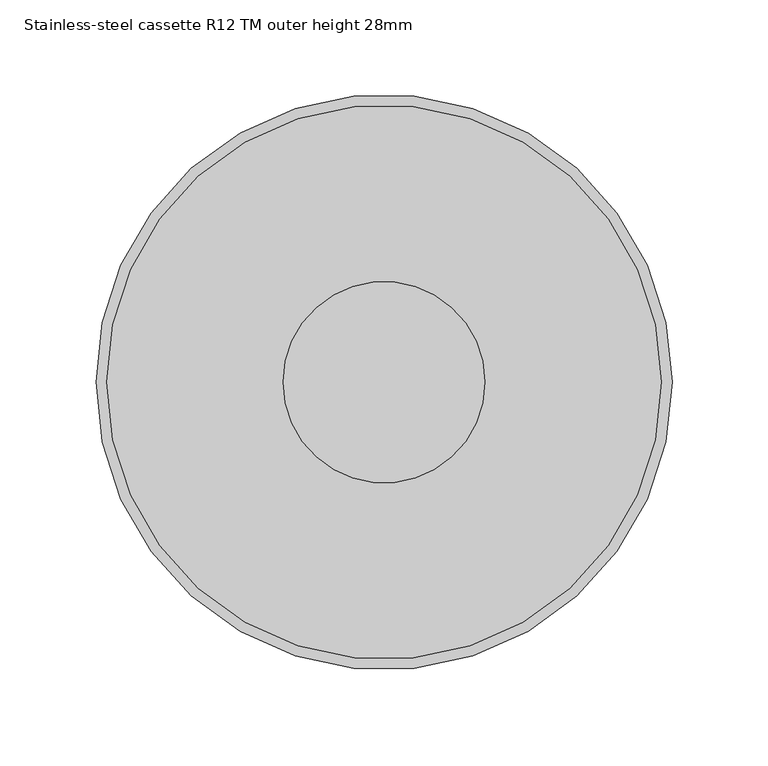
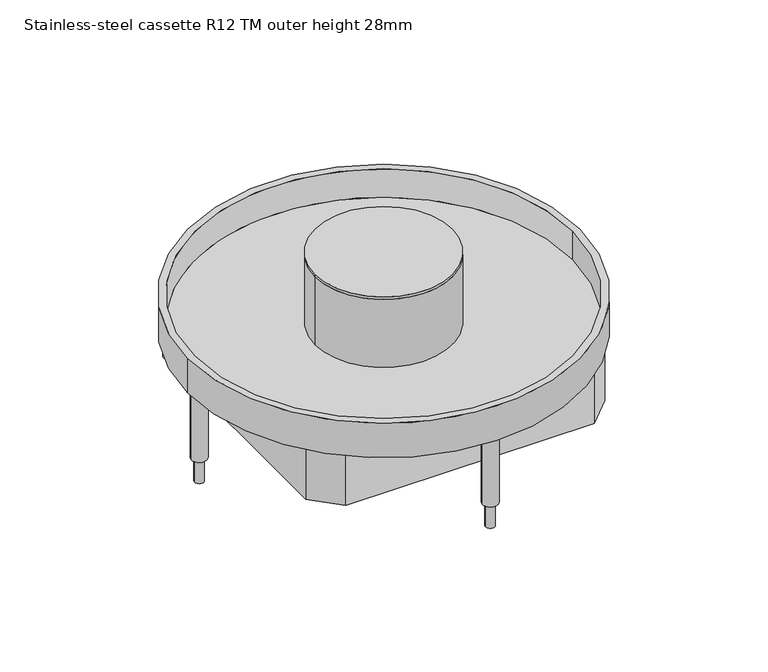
"""IFC4 building model written with IfcOpenShell, lengths in millimetres: proxy geometry, Electrical_Installation_Hager_VE-EE_EKR-Height-adjustable-stainless-steel-cassette-with-tube-mounting-set-round-for-damp-cleaned-floors : Stainless-steel cassette R12 TM outer height 28mm."""

from ifc_helpers import new_model, si_unit, point, frame, frame_2d, origin, origin_2d, place, context, project, spatial, polyline, circle_curve, trimmed, segment, composite_curve, outline, extrude, source, transform, mapped, element, save
from ifc_brep_helpers import plane_surface, cylinder_surface, revolved_surface, advanced_brep


def stainless_steel_cassette_r12_tm_outer_height_28mm_26a360f3(model_context):
    return source(origin(), model_context, "Body", "SolidModel", [
        extrude(outline(composite_curve([segment(trimmed(circle_curve(origin_2d(), 52.5), [point((-52.5, 0.0))], [point((52.5, 0.0))], False, "CARTESIAN"), True, "CONTINUOUS"), segment(trimmed(circle_curve(origin_2d(), 52.5), [point((52.5, 0.0))], [point((-52.5, 0.0))], False, "CARTESIAN"), True, "CONTINUOUS")], self_intersect=False)), frame((0.0, 0.0, 34.011943), z_axis=(0.0, 0.0, 1.0), x_axis=(1.0, 0.0, 0.0)), (0.0, 0.0, 1.0), 1.9818652),
        extrude(outline(composite_curve([segment(trimmed(circle_curve(origin_2d(), 52.5), [point((-52.5, 0.0))], [point((52.5, 0.0))], False, "CARTESIAN"), True, "CONTINUOUS"), segment(trimmed(circle_curve(origin_2d(), 52.5), [point((52.5, 0.0))], [point((-52.5, 0.0))], False, "CARTESIAN"), True, "CONTINUOUS")], self_intersect=False), holes=[composite_curve([segment(trimmed(circle_curve(origin_2d(), 40.0), [point((-40.0, 0.0))], [point((40.0, 0.0))], True, "CARTESIAN"), True, "CONTINUOUS"), segment(trimmed(circle_curve(origin_2d(), 40.0), [point((40.0, 0.0))], [point((-40.0, 0.0))], True, "CARTESIAN"), True, "CONTINUOUS")], self_intersect=False)]), frame((0.0, 0.0, -20.988057), z_axis=(0.0, 0.0, 1.0), x_axis=(1.0, 0.0, 0.0)), (0.0, 0.0, 1.0), 55.0),
        extrude(outline(composite_curve([segment(trimmed(circle_curve(frame_2d((-141.3, 0.0)), 3.5), [point((-144.8, 0.0))], [point((-137.8, 0.0))], False, "CARTESIAN"), True, "CONTINUOUS"), segment(trimmed(circle_curve(frame_2d((-141.3, 0.0)), 3.5), [point((-137.8, 0.0))], [point((-144.8, 0.0))], False, "CARTESIAN"), True, "CONTINUOUS")], self_intersect=False)), frame((0.0, 0.0, -100.0), z_axis=(0.0, 0.0, 1.0), x_axis=(1.0, 0.0, 0.0)), (0.0, 0.0, 1.0), 74.011943),
        extrude(outline(composite_curve([segment(trimmed(circle_curve(frame_2d((0.0, 141.3)), 3.5), [point((-3.5, 141.3))], [point((3.5, 141.3))], False, "CARTESIAN"), True, "CONTINUOUS"), segment(trimmed(circle_curve(frame_2d((0.0, 141.3)), 3.5), [point((3.5, 141.3))], [point((-3.5, 141.3))], False, "CARTESIAN"), True, "CONTINUOUS")], self_intersect=False)), frame((0.0, 0.0, -100.0), z_axis=(0.0, 0.0, 1.0), x_axis=(1.0, 0.0, 0.0)), (0.0, 0.0, 1.0), 74.011943),
        extrude(outline(composite_curve([segment(trimmed(circle_curve(frame_2d((141.3, 0.0)), 3.548869), [point((137.751131, 0.0))], [point((144.848869, 0.0))], False, "CARTESIAN"), True, "CONTINUOUS"), segment(trimmed(circle_curve(frame_2d((141.3, 0.0)), 3.548869), [point((144.848869, 0.0))], [point((137.751131, 0.0))], False, "CARTESIAN"), True, "CONTINUOUS")], self_intersect=False)), frame((0.0, 0.0, -100.0), z_axis=(0.0, 0.0, 1.0), x_axis=(1.0, 0.0, 0.0)), (0.0, 0.0, 1.0), 74.011943),
        extrude(outline(composite_curve([segment(trimmed(circle_curve(frame_2d((0.0, -141.3)), 3.5), [point((-3.5, -141.3))], [point((3.5, -141.3))], False, "CARTESIAN"), True, "CONTINUOUS"), segment(trimmed(circle_curve(frame_2d((0.0, -141.3)), 3.5), [point((3.5, -141.3))], [point((-3.5, -141.3))], False, "CARTESIAN"), True, "CONTINUOUS")], self_intersect=False)), frame((0.0, 0.0, -100.0), z_axis=(0.0, 0.0, 1.0), x_axis=(1.0, 0.0, 0.0)), (0.0, 0.0, 1.0), 74.011943),
        advanced_brep(
        [(144.5, 0.0, -20.988057), (-144.5, 0.0, -20.988057), (-40.0, 0.0, -20.988057), (40.0, 0.0, -20.988057), (-150.0, 0.0, -25.988057), (150.0, 0.0, -25.988057), (-40.0, 0.0, -25.988057), (40.0, 0.0, -25.988057), (-150.0, 0.0, 2.011943), (150.0, 0.0, 2.011943), (-144.5, 0.0, 2.011943), (144.5, 0.0, 2.011943)],
        [
            (0, 1, circle_curve(frame((0.0, 0.0, -20.988057), z_axis=(0.0, 0.0, 1.0), x_axis=(1.0, 0.0, 0.0)), 144.5)),
            (1, 0, circle_curve(frame((0.0, 0.0, -20.988057), z_axis=(0.0, 0.0, 1.0), x_axis=(1.0, 0.0, 0.0)), 144.5)),
            (2, 3, circle_curve(frame((0.0, 0.0, -20.988057), z_axis=(0.0, 0.0, -1.0), x_axis=(1.0, 0.0, 0.0)), 40.0)),
            (3, 2, circle_curve(frame((0.0, 0.0, -20.988057), z_axis=(0.0, 0.0, -1.0), x_axis=(1.0, 0.0, 0.0)), 40.0)),
            (4, 5, circle_curve(frame((0.0, 0.0, -25.988057), z_axis=(0.0, 0.0, -1.0), x_axis=(1.0, 0.0, 0.0)), 150.0)),
            (5, 4, circle_curve(frame((0.0, 0.0, -25.988057), z_axis=(0.0, 0.0, -1.0), x_axis=(1.0, 0.0, 0.0)), 150.0)),
            (6, 7, circle_curve(frame((0.0, 0.0, -25.988057), z_axis=(0.0, 0.0, 1.0), x_axis=(1.0, 0.0, 0.0)), 40.0)),
            (7, 6, circle_curve(frame((0.0, 0.0, -25.988057), z_axis=(0.0, 0.0, 1.0), x_axis=(1.0, 0.0, 0.0)), 40.0)),
            (8, 9, circle_curve(frame((0.0, 0.0, 2.011943), z_axis=(0.0, 0.0, 1.0), x_axis=(1.0, 0.0, 0.0)), 150.0)),
            (9, 8, circle_curve(frame((0.0, 0.0, 2.011943), z_axis=(0.0, 0.0, 1.0), x_axis=(1.0, 0.0, 0.0)), 150.0)),
            (10, 11, circle_curve(frame((0.0, 0.0, 2.011943), z_axis=(0.0, 0.0, -1.0), x_axis=(1.0, 0.0, 0.0)), 144.5)),
            (11, 10, circle_curve(frame((0.0, 0.0, 2.011943), z_axis=(0.0, 0.0, -1.0), x_axis=(1.0, 0.0, 0.0)), 144.5)),
            (8, 4),
            (5, 9),
            (10, 1),
            (0, 11),
            (2, 6),
            (7, 3),
        ],
        [
            plane_surface(frame((144.5, 0.0, -20.988057), z_axis=(0.0, 0.0, 1.0), x_axis=(0.0, 1.0, 0.0))),
            plane_surface(frame((144.5, 0.0, -25.988057), z_axis=(0.0, 0.0, -1.0), x_axis=(0.0, -1.0, 0.0))),
            plane_surface(frame((150.0, 0.0, 2.011943), z_axis=(0.0, 0.0, 1.0), x_axis=(0.0, 1.0, 0.0))),
            cylinder_surface(frame((0.0, 0.0, -25.988057), z_axis=(0.0, 0.0, 1.0), x_axis=(1.0, 0.0, 0.0)), 150.0),
            revolved_surface(polyline([(144.5, 0.0, -20.988057), (144.5, 0.0, 2.011943)]), (0.0, 0.0, 0.0), (0.0, 0.0, -1.0)),
            revolved_surface(polyline([(40.0, 0.0, -25.988057), (40.0, 0.0, -20.988057)]), (0.0, 0.0, 0.0), (0.0, 0.0, -1.0)),
        ],
        [
            (0, [[1, 2], [3, 4]]),
            (1, [[5, 6], [7, 8]]),
            (2, [[9, 10], [11, 12]]),
            (3, [[-9, 13, -6, 14]]),
            (3, [[-10, -14, -5, -13]]),
            (4, [[-11, 15, -1, 16]]),
            (4, [[-12, -16, -2, -15]]),
            (5, [[-3, 17, -8, 18]]),
            (5, [[-4, -18, -7, -17]]),
        ],
    ),
        extrude(outline(polyline([(94.9818914, 114.5), (114.5, 94.9818914), (114.5, -94.9818914), (94.9818914, -114.5), (-94.9818914, -114.5), (-114.5, -94.9818914), (-114.5, 94.9818914), (-94.9818914, 114.5), (94.9818914, 114.5)]), holes=[polyline([(-111.5, 93.8602374), (-111.5, -93.8602374), (-93.8602374, -111.5), (93.8602374, -111.5), (111.5, -93.8602374), (111.5, 93.8602374), (93.8602374, 111.5), (-93.8602374, 111.5), (-111.5, 93.8602374)])]), frame((0.0, 0.0, -66.9256945), z_axis=(0.0, 0.0, 1.0), x_axis=(1.0, 0.0, 0.0)), (0.0, 0.0, 1.0), 40.9376375),
        extrude(outline(composite_curve([segment(trimmed(circle_curve(frame_2d((0.0, 141.3)), 5.9738904), [point((-5.9738904, 141.3))], [point((5.9738904, 141.3))], False, "CARTESIAN"), True, "CONTINUOUS"), segment(trimmed(circle_curve(frame_2d((0.0, 141.3)), 5.9738904), [point((5.9738904, 141.3))], [point((-5.9738904, 141.3))], False, "CARTESIAN"), True, "CONTINUOUS")], self_intersect=False)), frame((0.0, 0.0, -81.0371838), z_axis=(0.0, 0.0, 1.0), x_axis=(1.0, 0.0, 0.0)), (0.0, 0.0, 1.0), 55.0491267),
        extrude(outline(composite_curve([segment(trimmed(circle_curve(frame_2d((141.3, 0.0)), 6.0), [point((135.3, 0.0))], [point((147.3, 0.0))], False, "CARTESIAN"), True, "CONTINUOUS"), segment(trimmed(circle_curve(frame_2d((141.3, 0.0)), 6.0), [point((147.3, 0.0))], [point((135.3, 0.0))], False, "CARTESIAN"), True, "CONTINUOUS")], self_intersect=False)), frame((0.0, 0.0, -81.0371838), z_axis=(0.0, 0.0, 1.0), x_axis=(1.0, 0.0, 0.0)), (0.0, 0.0, 1.0), 55.0491267),
        extrude(outline(composite_curve([segment(trimmed(circle_curve(frame_2d((0.0, -141.3)), 6.0), [point((-6.0, -141.3))], [point((6.0, -141.3))], False, "CARTESIAN"), True, "CONTINUOUS"), segment(trimmed(circle_curve(frame_2d((0.0, -141.3)), 6.0), [point((6.0, -141.3))], [point((-6.0, -141.3))], False, "CARTESIAN"), True, "CONTINUOUS")], self_intersect=False)), frame((0.0, 0.0, -81.0371838), z_axis=(0.0, 0.0, 1.0), x_axis=(1.0, 0.0, 0.0)), (0.0, 0.0, 1.0), 55.0491267),
        extrude(outline(composite_curve([segment(trimmed(circle_curve(frame_2d((-141.3, 0.0)), 6.0), [point((-147.3, 0.0))], [point((-135.3, 0.0))], False, "CARTESIAN"), True, "CONTINUOUS"), segment(trimmed(circle_curve(frame_2d((-141.3, 0.0)), 6.0), [point((-135.3, 0.0))], [point((-147.3, 0.0))], False, "CARTESIAN"), True, "CONTINUOUS")], self_intersect=False)), frame((0.0, 0.0, -81.0371838), z_axis=(0.0, 0.0, 1.0), x_axis=(1.0, 0.0, 0.0)), (0.0, 0.0, 1.0), 55.0491267),
    ])


if __name__ == "__main__":
    model = new_model("IFC4")
    model_context = context("Model", 3, world=origin())
    ifc_project = project(units=[si_unit("LENGTHUNIT", "METRE", prefix="MILLI")], contexts=[model_context])
    site = spatial("IfcSite", under=ifc_project)
    building = spatial("IfcBuilding", under=site)
    placement = place(None, origin())
    stainless_steel_cassette_r12_tm_outer_height_28mm_shape = stainless_steel_cassette_r12_tm_outer_height_28mm_26a360f3(model_context)
    element("IfcBuildingElementProxy", 1, Name="Electrical_Installation_Hager_VE-EE_EKR-Height-adjustable-stainless-steel-cassette-with-tube-mounting-set-round-for-damp-cleaned-floors : Stainless-steel cassette R12 TM outer height 28mm", ObjectType="Electrical_Installation_Hager_VE-EE_EKR-Height-adjustable-stainless-steel-cassette-with-tube-mounting-set-round-for-damp-cleaned-floors : Stainless-steel cassette R12 TM outer height 28mm", at=placement, inside=building, context=model_context, shape_type="MappedRepresentation", body=[
        mapped(stainless_steel_cassette_r12_tm_outer_height_28mm_shape, transform((0.0, 0.0, 0.0), x_axis=(1.0, 0.0, 0.0), y_axis=(0.0, 1.0, 0.0), z_axis=(0.0, 0.0, 1.0))),
    ])
    save(model, "model.ifc")
